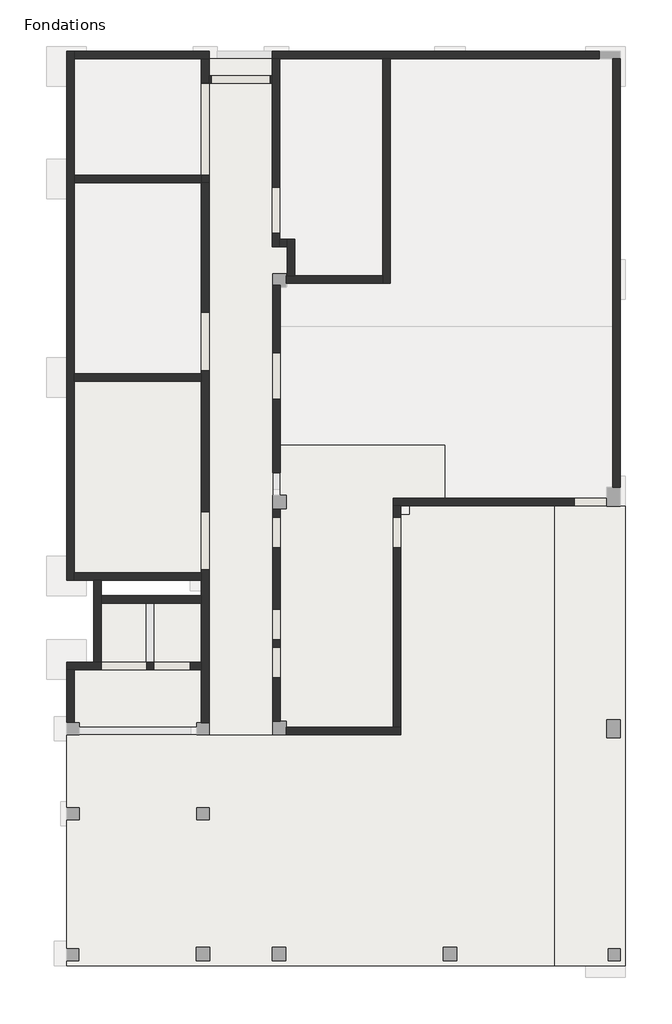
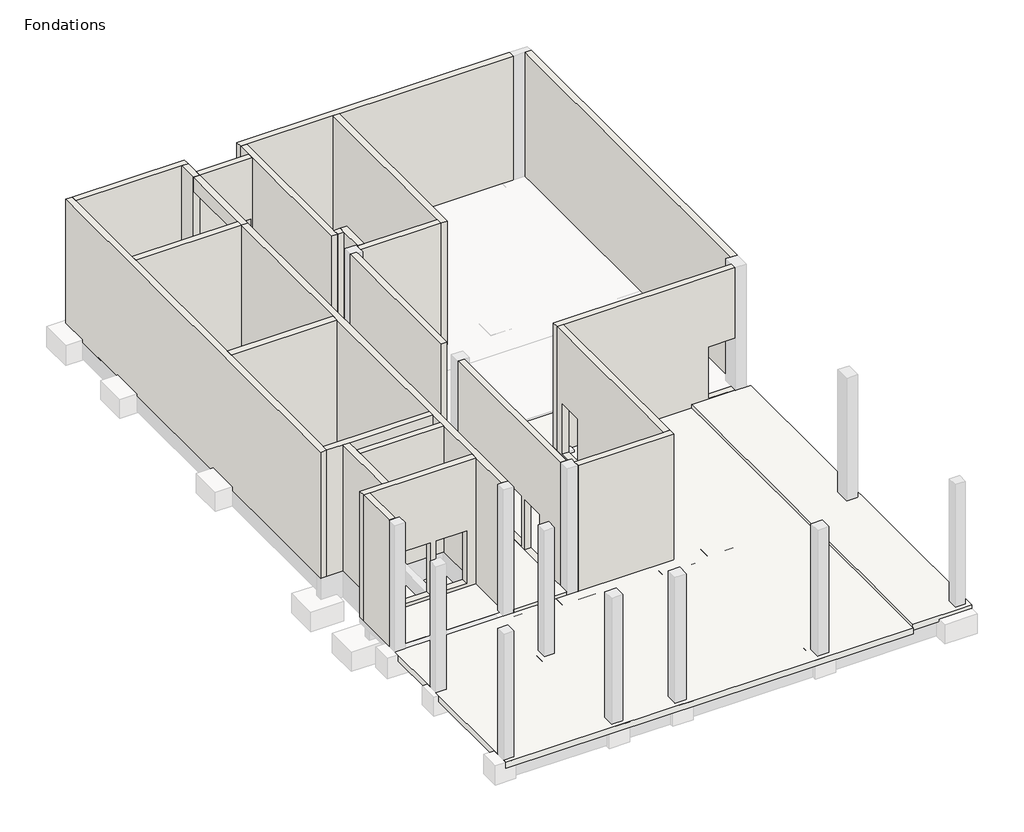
# One storey, part 1 of 3: 25 walls, 7 slabs.
"""IFC4 building model written with IfcOpenShell, lengths in millimetres."""

import ifcopenshell
import ifcopenshell.guid

model = None  # the IFC model being written
_history = None  # IfcOwnerHistory: only IFC2X3 demands one
_inside = {}  # id of a spatial element -> (the spatial element, [elements in it])
_under = {}  # id of a project, library or spatial element -> (it, [spatial elements below it])
_declared = {}  # id of a project -> (the project, [libraries it declares])
_typed = {}  # id of a type object -> (the type object, [elements of that type])
_made_of = {}  # id of a material, layer set ... -> (it, [elements and type objects made of it])


def new_model(schema):
    """Start an empty IFC model of exactly this schema.

    Asked for "IFC4X3", IfcOpenShell would pick the latest addendum, in which some entities
    have other attributes; the version numbers below select the first issue.
    IFC2X3 requires an IfcOwnerHistory on every rooted entity: one is made here for all.
    """
    global model, _history
    if schema == "IFC4X3":
        model = ifcopenshell.file(schema_version=(4, 3, 0, 0))
    else:
        model = ifcopenshell.file(schema=schema)
    _inside.clear()
    _under.clear()
    _declared.clear()
    _typed.clear()
    _made_of.clear()
    _history = None
    if model.schema == "IFC2X3":
        org = make("IfcOrganization", Name="unknown")
        user = make(
            "IfcPersonAndOrganization",
            ThePerson=make("IfcPerson", FamilyName="unknown"),
            TheOrganization=org,
        )
        app = make(
            "IfcApplication",
            ApplicationDeveloper=org,
            Version="unknown",
            ApplicationFullName="unknown",
            ApplicationIdentifier="unknown",
        )
        _history = make(
            "IfcOwnerHistory",
            OwningUser=user,
            OwningApplication=app,
            ChangeAction="ADDED",
            CreationDate=0,
        )
    return model


def make(cls, **values):
    """One entity of the class cls with the attributes given. An attribute that is None is left unset."""
    return model.create_entity(
        cls, **{name: value for name, value in values.items() if value is not None}
    )


def rooted(cls, **values):
    """An entity with a GlobalId (a new one), such as an element, a storey or a relation."""
    return make(cls, GlobalId=ifcopenshell.guid.new(), OwnerHistory=_history, **values)


def si_unit(unit_type, name, prefix=None):
    """IfcSIUnit, for example si_unit("LENGTHUNIT", "METRE", prefix="MILLI")."""
    return make("IfcSIUnit", UnitType=unit_type, Prefix=prefix, Name=name)


def assignment(units):
    """IfcUnitAssignment: the units of a project."""
    return None if units is None else make("IfcUnitAssignment", Units=units)


def point(xyz):
    """IfcCartesianPoint."""
    return None if xyz is None else make("IfcCartesianPoint", Coordinates=xyz)


def direction(xyz):
    """IfcDirection."""
    return None if xyz is None else make("IfcDirection", DirectionRatios=xyz)


def frame(location, z_axis=None, x_axis=None):
    """IfcAxis2Placement3D, a coordinate frame: its origin and axes. An axis left out is left unset."""
    return make(
        "IfcAxis2Placement3D",
        Location=point(location),
        Axis=direction(z_axis),
        RefDirection=direction(x_axis),
    )


def origin():
    """The frame at (0, 0, 0) with its axes left unset."""
    return frame((0.0, 0.0, 0.0))


def place(relative_to, where):
    """IfcLocalPlacement: puts the frame where relative to a parent placement (None: the world)."""
    return make(
        "IfcLocalPlacement", PlacementRelTo=relative_to, RelativePlacement=where
    )


def context(
    kind, dimensions, precision=None, world=None, true_north=None, identifier=None
):
    """IfcGeometricRepresentationContext, for example the 3D "Model" context."""
    return make(
        "IfcGeometricRepresentationContext",
        ContextIdentifier=identifier,
        ContextType=kind,
        CoordinateSpaceDimension=dimensions,
        Precision=precision,
        WorldCoordinateSystem=world,
        TrueNorth=true_north,
    )


def project(units=None, contexts=None):
    """IfcProject with its units and contexts."""
    return rooted(
        "IfcProject",
        Name="project",
        RepresentationContexts=contexts,
        UnitsInContext=assignment(units),
    )


def spatial(cls, under=None, at=None, **own):
    """A site, building, storey or space (cls), placed at a placement, below another one or the project."""
    s = rooted(cls, ObjectPlacement=at, **own)
    if under is not None:
        _under.setdefault(under.id(), (under, []))[1].append(s)
    return s


def polyline(points):
    """IfcPolyline through the points."""
    return make("IfcPolyline", Points=[point(p) for p in points])


def outline(outer, holes=None, kind="AREA"):
    """IfcArbitraryClosedProfileDef: a profile drawn as a closed curve; with holes, ...WithVoids."""
    if holes is None:
        return make("IfcArbitraryClosedProfileDef", ProfileType=kind, OuterCurve=outer)
    return make(
        "IfcArbitraryProfileDefWithVoids",
        ProfileType=kind,
        OuterCurve=outer,
        InnerCurves=holes,
    )


def extrude(swept, where, along, depth):
    """IfcExtrudedAreaSolid: the profile swept, set in the frame where, extruded along a direction by depth."""
    return make(
        "IfcExtrudedAreaSolid",
        SweptArea=swept,
        Position=where,
        ExtrudedDirection=direction(along),
        Depth=depth,
    )


def faces_of(points, faces, orient=None, outer=None):
    """IfcFace entities. A face is a list of loops; a loop is a list of indices into points, from 0.

    orient and outer hold one flag for each loop. By default every Orientation is true, the
    first loop of a face is its IfcFaceOuterBound and the others are IfcFaceBound.
    """
    made = []
    for i, loops in enumerate(faces):
        bounds = []
        for j, loop in enumerate(loops):
            is_outer = j == 0 if outer is None else outer[i][j]
            bounds.append(
                make(
                    "IfcFaceOuterBound" if is_outer else "IfcFaceBound",
                    Bound=make("IfcPolyLoop", Polygon=[points[k] for k in loop]),
                    Orientation=True if orient is None else orient[i][j],
                )
            )
        made.append(make("IfcFace", Bounds=bounds))
    return made


def faceted_brep(points, faces, orient=None, outer=None, voids=None):
    """IfcFacetedBrep: a solid bounded by flat faces; with voids (closed shells), ...WithVoids."""
    shared = [point(p) for p in points]
    hull = make("IfcClosedShell", CfsFaces=faces_of(shared, faces, orient, outer))
    if voids is None:
        return make("IfcFacetedBrep", Outer=hull)
    return make(
        "IfcFacetedBrepWithVoids",
        Outer=hull,
        Voids=[
            make(cls, CfsFaces=faces_of(shared, fs, o, b)) for cls, fs, o, b in voids
        ],
    )


def shape(context_of_items, identifier, shape_type, items):
    """IfcShapeRepresentation: the items that make up one representation, for example the "Body"."""
    return make(
        "IfcShapeRepresentation",
        ContextOfItems=context_of_items,
        RepresentationIdentifier=identifier,
        RepresentationType=shape_type,
        Items=items,
    )


def made_of(thing, what):
    """Note that an element or type object is made of a material, layer set ...; save() writes the relation."""
    if what is not None:
        _made_of.setdefault(what.id(), (what, []))[1].append(thing)
    return thing


def element(
    cls,
    number,
    at=None,
    inside=None,
    cuts=None,
    type_object=None,
    material=None,
    context=None,
    identifier="Body",
    shape_type=None,
    held_by="IfcProductDefinitionShape",
    body=None,
    shapes=None,
    **own,
):
    """One element of the class cls, such as IfcWall. Its Tag is "e" and its number.

    at: its placement. inside: the storey or other place that contains it. cuts: it is an
    opening in that element (IfcRelVoidsElement). A single representation is given by context,
    identifier, shape_type and body (its items); several are given by shapes. held_by: the class
    of the entity that holds the representations. save() writes the other relations.
    """
    e = rooted(cls, Tag="e%d" % number, ObjectPlacement=at, **own)
    if body is not None:
        shapes = [shape(context, identifier, shape_type, body)]
    if shapes is not None:
        e.Representation = make(held_by, Representations=shapes)
    if inside is not None:
        _inside.setdefault(inside.id(), (inside, []))[1].append(e)
    if cuts is not None:
        rooted(
            "IfcRelVoidsElement", RelatingBuildingElement=cuts, RelatedOpeningElement=e
        )
    if type_object is not None:
        _typed.setdefault(type_object.id(), (type_object, []))[1].append(e)
    return made_of(e, material)


def aggregate(whole, parts):
    """IfcRelAggregates: a whole, such as a stair, and the parts it consists of."""
    return rooted("IfcRelAggregates", RelatingObject=whole, RelatedObjects=parts)


def save(model, path):
    """Write the relations noted so far, then the file.

    IfcRelAggregates (storeys below a building ...), IfcRelContainedInSpatialStructure (elements
    in a storey), IfcRelDefinesByType, IfcRelAssociatesMaterial and IfcRelDeclares: one each for
    every whole, place, type object, material and project.
    """
    for whole, parts in _under.values():
        aggregate(whole, parts)
    for where, things in _inside.values():
        rooted(
            "IfcRelContainedInSpatialStructure",
            RelatedElements=things,
            RelatingStructure=where,
        )
    for kind, things in _typed.values():
        rooted("IfcRelDefinesByType", RelatedObjects=things, RelatingType=kind)
    for what, things in _made_of.values():
        rooted("IfcRelAssociatesMaterial", RelatedObjects=things, RelatingMaterial=what)
    for by, libraries in _declared.values():
        rooted("IfcRelDeclares", RelatingContext=by, RelatedDefinitions=libraries)
    model.write(path)


model = new_model("IFC4")

# Units and contexts
model_context = context("Model", 3, world=origin())
ifc_project = project(units=[si_unit("LENGTHUNIT", "METRE", prefix="MILLI")], contexts=[model_context])

# Site, building, storey
site = spatial("IfcSite", under=ifc_project)
building = spatial("IfcBuilding", under=site)
storey = spatial("IfcBuildingStorey", under=building, Name="Fondations", Elevation=-160.0)

# Slabs
placement = place(None, origin())
element("IfcSlab", 1, ObjectType="Générique  20 cm", at=placement, inside=storey, context=model_context, shape_type="Brep", body=[
    faceted_brep([(-2002.7042431, 5679.8777218, -270.0), (-2002.7042431, 3909.8777218, -270.0), (-3712.7042431, 3909.8777218, -270.0), (-3712.7042431, -3625.1222782, -270.0), (-7232.7042431, -3625.1222782, -270.0), (-7232.7042431, -3425.1222782, -270.0), (-7432.7042431, -3425.1222782, -270.0), (-7432.7042431, -3000.1222782, -270.0), (-7432.7042431, 3384.8777218, -270.0), (-7432.7042431, 3554.8777218, -270.0), (-7232.7042431, 3554.8777218, -270.0), (-7232.7042431, 4009.8777218, -270.0), (-7432.7042431, 4009.8777218, -270.0), (-7432.7042431, 4184.8777218, -270.0), (-7432.7042431, 5679.8777218, -270.0), (-7357.7042431, 5679.8777218, -270.0), (-2002.7042431, 5679.8777218, -70.0), (-7432.7042431, 5679.8777218, -70.0), (-7432.7042431, 4749.8777218, -70.0), (-7432.7042431, 4184.8777218, -70.0), (-7432.7042431, 4009.8777218, -70.0), (-7232.7042431, 4009.8777218, -70.0), (-7232.7042431, 3554.8777218, -70.0), (-7432.7042431, 3554.8777218, -70.0), (-7432.7042431, -3425.1222782, -70.0), (-7232.7042431, -3425.1222782, -70.0), (-7232.7042431, -3625.1222782, -70.0), (-3712.7042431, -3625.1222782, -70.0), (-3712.7042431, 3909.8777218, -70.0), (-2002.7042431, 3909.8777218, -70.0), (-7232.7042431, -3425.1222782, -160.0), (-7432.7042431, 5679.8777218, -250.0)], [[[0, 1, 2, 3, 4, 5, 6, 7, 8, 9, 10, 11, 12, 13, 14, 15]], [[16, 17, 18, 19, 20, 21, 22, 23, 24, 25, 26, 27, 28, 29]], [[1, 0, 16, 29]], [[2, 1, 29, 28]], [[3, 2, 28, 27]], [[4, 3, 27, 26]], [[5, 4, 26, 25, 30]], [[6, 5, 30, 25, 24]], [[9, 8, 7, 6, 24, 23]], [[10, 9, 23, 22]], [[11, 10, 22, 21]], [[12, 11, 21, 20]], [[14, 13, 12, 20, 19, 18, 17, 31]], [[0, 15, 14, 31, 17, 16]]]),
])
element("IfcSlab", 2, ObjectType="Générique  25 cm", at=placement, inside=storey, context=model_context, shape_type="Brep", body=[
    faceted_brep([(1602.2957569, 3659.8777218, -405.0), (1602.2957569, 3634.8777218, -405.0), (1602.2957569, -11065.1222782, -405.0), (1602.2957569, -11315.1222782, -405.0), (1602.2957569, -11475.1222782, -405.0), (-14472.7042431, -11475.1222782, -405.0), (-14472.7042431, -11315.1222782, -405.0), (-14072.7042431, -11315.1222782, -405.0), (-14072.7042431, -10915.1222782, -405.0), (-14472.7042431, -10915.1222782, -405.0), (-14472.7042431, -6675.1222782, -405.0), (-14062.7042431, -6675.1222782, -405.0), (-14062.7042431, -6275.1222782, -405.0), (-14462.7042431, -6275.1222782, -405.0), (-14462.7042431, -3875.1222782, -405.0), (-3462.7042431, -3875.1222782, -405.0), (-3462.7042431, 3659.8777218, -405.0), (-1352.7042431, 3659.8777218, -405.0), (1602.2957569, 3659.8777218, -155.0), (-3462.7042431, 3659.8777218, -155.0), (-3462.7042431, -3875.1222782, -155.0), (-14462.7042431, -3875.1222782, -155.0), (-14462.7042431, -6275.1222782, -155.0), (-14062.7042431, -6275.1222782, -155.0), (-14062.7042431, -6675.1222782, -155.0), (-14472.7042431, -6675.1222782, -155.0), (-14472.7042431, -10915.1222782, -155.0), (-14072.7042431, -10915.1222782, -155.0), (-14072.7042431, -11315.1222782, -155.0), (-14472.7042431, -11315.1222782, -155.0), (-14472.7042431, -11475.1222782, -155.0), (1602.2957569, -11475.1222782, -155.0), (1602.2957569, 3659.8777218, -265.0), (-14072.7042431, -11315.1222782, -160.0), (-14072.7042431, -10915.1222782, -160.0), (-14472.7042431, -10915.1222782, -160.0), (-14062.7042431, -6675.1222782, -160.0), (-14062.7042431, -6275.1222782, -160.0), (-14462.7042431, -6275.1222782, -160.0), (-14462.7042431, -3875.1222782, -160.0), (-14472.7042431, -11315.1222782, -160.0)], [[[0, 1, 2, 3, 4, 5, 6, 7, 8, 9, 10, 11, 12, 13, 14, 15, 16, 17]], [[18, 19, 20, 21, 22, 23, 24, 25, 26, 27, 28, 29, 30, 31]], [[4, 3, 2, 1, 0, 32, 18, 31]], [[8, 7, 33, 28, 27, 34]], [[9, 8, 34, 27, 26, 35]], [[10, 9, 35, 26, 25]], [[11, 10, 25, 24, 36]], [[12, 11, 36, 24, 23, 37]], [[13, 12, 37, 23, 22, 38]], [[14, 13, 38, 22, 21, 39]], [[15, 14, 39, 21, 20]], [[16, 15, 20, 19]], [[0, 17, 16, 19, 18, 32]], [[5, 4, 31, 30]], [[6, 5, 30, 29, 40]], [[7, 6, 40, 29, 28, 33]]]),
])
element("IfcSlab", 3, ObjectType="Générique  25 cm", at=placement, inside=storey, context=model_context, shape_type="Brep", body=[
    faceted_brep([(3307.2957569, 3659.8777218, -265.0), (3307.2957569, 3644.8777218, -265.0), (3917.2957569, 3644.8777218, -265.0), (3917.2957569, -11315.1222782, -265.0), (3917.2957569, -11475.1222782, -265.0), (1597.2957569, -11475.1222782, -265.0), (1597.2957569, 3659.8777218, -265.0), (1602.2957569, 3659.8777218, -265.0), (2617.2957569, 3659.8777218, -265.0), (3307.2957569, 3659.8777218, -15.0), (1597.2957569, 3659.8777218, -15.0), (1597.2957569, -11475.1222782, -15.0), (3917.2957569, -11475.1222782, -15.0), (3917.2957569, -11315.1222782, -15.0), (3917.2957569, 3644.8777218, -15.0), (3307.2957569, 3644.8777218, -15.0)], [[[0, 1, 2, 3, 4, 5, 6, 7, 8]], [[9, 10, 11, 12, 13, 14, 15]], [[1, 0, 9, 15]], [[2, 1, 15, 14]], [[3, 2, 14, 13]], [[4, 3, 13, 12]], [[5, 4, 12, 11]], [[6, 5, 11, 10]], [[0, 8, 7, 6, 10, 9]]]),
])
element("IfcSlab", 4, ObjectType="Générique  20 cm", at=placement, inside=storey, context=model_context, shape_type="Brep", body=[
    faceted_brep([(-10032.7042431, -3475.1222782, -355.0), (-10182.7042431, -3475.1222782, -355.0), (-10182.7042431, -3615.1222782, -355.0), (-14062.7042431, -3615.1222782, -355.0), (-14062.7042431, -3470.1222782, -355.0), (-14212.7042431, -3470.1222782, -355.0), (-14212.7042431, -1735.1222782, -355.0), (-10032.7042431, -1735.1222782, -355.0), (-10032.7042431, -3475.1222782, -155.0), (-10032.7042431, -1735.1222782, -155.0), (-14212.7042431, -1735.1222782, -155.0), (-14212.7042431, -3470.1222782, -155.0), (-14062.7042431, -3470.1222782, -155.0), (-14062.7042431, -3615.1222782, -155.0), (-10182.7042431, -3615.1222782, -155.0), (-10182.7042431, -3475.1222782, -155.0), (-10182.7042431, -3475.1222782, -160.0), (-10032.7042431, -1735.1222782, -160.0)], [[[0, 1, 2, 3, 4, 5, 6, 7]], [[8, 9, 10, 11, 12, 13, 14, 15]], [[1, 0, 8, 15, 16]], [[2, 1, 16, 15, 14]], [[3, 2, 14, 13]], [[4, 3, 13, 12]], [[5, 4, 12, 11]], [[6, 5, 11, 10]], [[7, 6, 10, 9, 17]], [[0, 7, 17, 9, 8]]]),
])
element("IfcSlab", 5, ObjectType="Générique  20 cm", at=placement, inside=storey, context=model_context, shape_type="Brep", body=[
    faceted_brep([(-13332.7042431, 454.8777218, -1250.0), (-10032.7042431, 454.8777218, -1250.0), (-10032.7042431, -1250.1222782, -1250.0), (-10032.7042431, -1485.1222782, -1250.0), (-10307.7042431, -1485.1222782, -1250.0), (-13332.7042431, -1485.1222782, -1250.0), (-13332.7042431, 454.8777218, -1050.0), (-13332.7042431, -1485.1222782, -1050.0), (-10032.7042431, -1485.1222782, -1050.0), (-10032.7042431, 454.8777218, -1050.0)], [[[0, 1, 2, 3, 4, 5]], [[6, 7, 8, 9]], [[1, 0, 6, 9]], [[3, 2, 1, 9, 8]], [[5, 4, 3, 8, 7]], [[0, 5, 7, 6]]]),
])
element("IfcSlab", 6, ObjectType="Générique  20 cm", at=placement, inside=storey, context=model_context, shape_type="Brep", body=[
    faceted_brep([(-10032.7042431, 1454.8777218, -200.0), (-10207.7042431, 1454.8777218, -200.0), (-14212.7042431, 1454.8777218, -200.0), (-14212.7042431, 7764.8777218, -200.0), (-10032.7042431, 7764.8777218, -200.0), (-10032.7042431, 7389.8777218, -200.0), (-10032.7042431, 1454.8777218, 0.0), (-10032.7042431, 7764.8777218, 0.0), (-10407.9824135, 7764.8777218, 0.0), (-13827.9824135, 7764.8777218, 0.0), (-14212.7042431, 7764.8777218, 0.0), (-14212.7042431, 1454.8777218, 0.0), (-10032.7042431, 1454.8777218, -160.0), (-14212.7042431, 1454.8777218, -160.0)], [[[0, 1, 2, 3, 4, 5]], [[6, 7, 8, 9, 10, 11]], [[2, 1, 0, 12, 6, 11, 13]], [[3, 2, 13, 11, 10]], [[4, 3, 10, 9, 8, 7]], [[0, 5, 4, 7, 6, 12]]]),
])
element("IfcSlab", 7, ObjectType="Générique  20 cm", at=placement, inside=storey, context=model_context, shape_type="Brep", body=[
    faceted_brep([(-9782.7042431, 18374.8777218, -215.0), (-7707.7042431, 18374.8777218, -215.0), (-7707.7042431, 17984.8777218, -215.0), (-7707.7042431, 12184.8777218, -215.0), (-7257.7042431, 12184.8777218, -215.0), (-7207.7042431, 12184.8777218, -215.0), (-7207.7042431, 11234.8777218, -215.0), (-7232.7042431, 11234.8777218, -215.0), (-7232.7042431, 11309.8777218, -215.0), (-7682.7042431, 11309.8777218, -215.0), (-7682.7042431, 10434.8777218, -215.0), (-7682.7042431, 4184.8777218, -215.0), (-7682.7042431, 3384.8777218, -215.0), (-7682.7042431, -3000.1222782, -215.0), (-7682.7042431, -3875.1222782, -215.0), (-8107.7042431, -3875.1222782, -215.0), (-9582.7042431, -3875.1222782, -215.0), (-9782.7042431, -3875.1222782, -215.0), (-9782.7042431, -1735.1222782, -215.0), (-9782.7042431, -1610.1222782, -215.0), (-9782.7042431, 1329.8777218, -215.0), (-9782.7042431, 1454.8777218, -215.0), (-9782.7042431, 7389.8777218, -215.0), (-9782.7042431, 8389.8777218, -215.0), (-9782.7042431, 13919.8777218, -215.0), (-9782.7042431, 18374.8777218, -15.0), (-9782.7042431, -3875.1222782, -15.0), (-7682.7042431, -3875.1222782, -15.0), (-7682.7042431, 11309.8777218, -15.0), (-7232.7042431, 11309.8777218, -15.0), (-7232.7042431, 11234.8777218, -15.0), (-7207.7042431, 11234.8777218, -15.0), (-7207.7042431, 12184.8777218, -15.0), (-7707.7042431, 12184.8777218, -15.0), (-7707.7042431, 18374.8777218, -15.0), (-7707.7042431, 18374.8777218, -30.0), (-7707.7042431, 18374.8777218, -70.0), (-7707.7042431, 12184.8777218, -160.0), (-7232.7042431, 11309.8777218, -70.0), (-7682.7042431, 11309.8777218, -70.0), (-7682.7042431, -3875.1222782, -160.0), (-9782.7042431, -3875.1222782, -160.0)], [[[0, 1, 2, 3, 4, 5, 6, 7, 8, 9, 10, 11, 12, 13, 14, 15, 16, 17, 18, 19, 20, 21, 22, 23, 24]], [[25, 26, 27, 28, 29, 30, 31, 32, 33, 34]], [[1, 0, 25, 34, 35, 36]], [[3, 2, 1, 36, 35, 34, 33, 37]], [[5, 4, 3, 37, 33, 32]], [[6, 5, 32, 31]], [[7, 6, 31, 30]], [[8, 7, 30, 29, 38]], [[9, 8, 38, 29, 28, 39]], [[14, 13, 12, 11, 10, 9, 39, 28, 27, 40]], [[17, 16, 15, 14, 40, 27, 26, 41]], [[0, 24, 23, 22, 21, 20, 19, 18, 17, 41, 26, 25]]]),
])

# Walls
element("IfcWall", 8, ObjectType="Générique - 25 cm", at=placement, inside=storey, context=model_context, shape_type="Brep", body=[
    faceted_brep([(3057.2957569, 18624.8777218, -160.0), (2617.2957569, 18624.8777218, -160.0), (-1352.7042431, 18624.8777218, -160.0), (-2352.7042431, 18624.8777218, -160.0), (-3942.7042431, 18624.8777218, -160.0), (-7157.7042431, 18624.8777218, -160.0), (-7707.7042431, 18624.8777218, -160.0), (-7707.7042431, 18624.8777218, -70.0), (-7707.7042431, 18624.8777218, -30.0), (-7707.7042431, 18624.8777218, 5105.0), (3057.2957569, 18624.8777218, 5105.0), (3057.2957569, 18624.8777218, -70.0), (3057.2957569, 18374.8777218, -160.0), (3057.2957569, 18374.8777218, -70.0), (3057.2957569, 18374.8777218, 5105.0), (-3817.7042431, 18374.8777218, 5105.0), (-4067.7042431, 18374.8777218, 5105.0), (-7457.7042431, 18374.8777218, 5105.0), (-7707.7042431, 18374.8777218, 5105.0), (-7707.7042431, 18374.8777218, -30.0), (-7707.7042431, 18374.8777218, -70.0), (-7707.7042431, 18374.8777218, -160.0), (-7457.7042431, 18374.8777218, -160.0), (-7157.7042431, 18374.8777218, -160.0), (-3942.7042431, 18374.8777218, -160.0), (-2352.7042431, 18374.8777218, -160.0), (-1352.7042431, 18374.8777218, -160.0), (2617.2957569, 18374.8777218, -160.0)], [[[0, 1, 2, 3, 4, 5, 6, 7, 8, 9, 10, 11]], [[12, 13, 14, 15, 16, 17, 18, 19, 20, 21, 22, 23, 24, 25, 26, 27]], [[6, 5, 4, 3, 2, 1, 0, 12, 27, 26, 25, 24, 23, 22, 21]], [[10, 9, 18, 17, 16, 15, 14]], [[0, 11, 10, 14, 13, 12]], [[9, 8, 7, 6, 21, 20, 19, 18]]]),
])
element("IfcWall", 9, ObjectType="Générique - 25 cm", at=placement, inside=storey, context=model_context, shape_type="Brep", body=[
    faceted_brep([(-7707.7042431, 18374.8777218, -160.0), (-7707.7042431, 17984.8777218, -160.0), (-7707.7042431, 17829.8777218, -160.0), (-7707.7042431, 17579.8777218, -160.0), (-7707.7042431, 12184.8777218, -160.0), (-7707.7042431, 12184.8777218, 5105.0), (-7707.7042431, 17579.8777218, 5105.0), (-7707.7042431, 17829.8777218, 5105.0), (-7707.7042431, 18374.8777218, 5105.0), (-7707.7042431, 14154.8777218, 2085.0), (-7707.7042431, 12634.8777218, 2085.0), (-7707.7042431, 12634.8777218, 0.0), (-7707.7042431, 14154.8777218, 0.0), (-7457.7042431, 12184.8777218, -160.0), (-7457.7042431, 12434.8777218, -160.0), (-7457.7042431, 17984.8777218, -160.0), (-7457.7042431, 18374.8777218, -160.0), (-7457.7042431, 18374.8777218, 5105.0), (-7457.7042431, 12434.8777218, 5105.0), (-7457.7042431, 12184.8777218, 5105.0), (-7457.7042431, 12634.8777218, 2085.0), (-7457.7042431, 14154.8777218, 2085.0), (-7457.7042431, 14154.8777218, 0.0), (-7457.7042431, 12634.8777218, 0.0)], [[[0, 1, 2, 3, 4, 5, 6, 7, 8], [9, 10, 11, 12]], [[13, 14, 15, 16, 17, 18, 19], [20, 21, 22, 23]], [[4, 3, 2, 1, 0, 16, 15, 14, 13]], [[8, 7, 6, 5, 19, 18, 17]], [[0, 8, 17, 16]], [[5, 4, 13, 19]], [[9, 21, 20, 10]], [[11, 23, 22, 12]], [[21, 9, 12, 22]], [[10, 20, 23, 11]]]),
])
element("IfcWall", 10, ObjectType="Générique - 25 cm", at=placement, inside=storey, context=model_context, shape_type="Brep", body=[
    faceted_brep([(3507.2957569, 18374.8777218, -160.0), (3507.2957569, 17484.8777218, -160.0), (3507.2957569, 11759.8777218, -160.0), (3507.2957569, 10459.8777218, -160.0), (3507.2957569, 4634.8777218, -160.0), (3507.2957569, 4274.8777218, -160.0), (3507.2957569, 4274.8777218, 5105.0), (3507.2957569, 18374.8777218, 5105.0), (3507.2957569, 18374.8777218, 0.0), (3507.2957569, 18374.8777218, -70.0), (3757.2957569, 18374.8777218, -160.0), (3757.2957569, 18374.8777218, -70.0), (3757.2957569, 18374.8777218, 0.0), (3757.2957569, 18374.8777218, 5105.0), (3757.2957569, 4274.8777218, 5105.0), (3757.2957569, 4274.8777218, -160.0), (3757.2957569, 4634.8777218, -160.0), (3757.2957569, 10459.8777218, -160.0), (3757.2957569, 11759.8777218, -160.0), (3757.2957569, 17484.8777218, -160.0)], [[[0, 1, 2, 3, 4, 5, 6, 7, 8, 9]], [[10, 11, 12, 13, 14, 15, 16, 17, 18, 19]], [[5, 4, 3, 2, 1, 0, 10, 19, 18, 17, 16, 15]], [[6, 5, 15, 14]], [[7, 6, 14, 13]], [[0, 9, 8, 7, 13, 12, 11, 10]]]),
])
element("IfcWall", 11, ObjectType="Générique - 25 cm", at=placement, inside=storey, context=model_context, shape_type="Brep", body=[
    faceted_brep([(3307.2957569, 3909.8777218, -160.0), (2617.2957569, 3909.8777218, -160.0), (-1352.7042431, 3909.8777218, -160.0), (-3712.7042431, 3909.8777218, -160.0), (-3712.7042431, 3909.8777218, 5105.0), (3307.2957569, 3909.8777218, 5105.0), (3307.2957569, 3909.8777218, 2160.0), (2247.5487045, 3909.8777218, 2160.0), (2247.5487045, 3909.8777218, 0.0), (3307.2957569, 3909.8777218, 0.0), (-3712.7042431, 3659.8777218, -160.0), (-3462.7042431, 3659.8777218, -160.0), (-1352.7042431, 3659.8777218, -160.0), (2617.2957569, 3659.8777218, -160.0), (3307.2957569, 3659.8777218, -160.0), (3307.2957569, 3659.8777218, 0.0), (2247.5487045, 3659.8777218, 0.0), (2247.5487045, 3659.8777218, 2160.0), (3307.2957569, 3659.8777218, 2160.0), (3307.2957569, 3659.8777218, 5105.0), (-3462.7042431, 3659.8777218, 5105.0), (-3712.7042431, 3659.8777218, 5105.0)], [[[0, 1, 2, 3, 4, 5, 6, 7, 8, 9]], [[10, 11, 12, 13, 14, 15, 16, 17, 18, 19, 20, 21]], [[3, 2, 1, 0, 14, 13, 12, 11, 10]], [[5, 4, 21, 20, 19]], [[14, 0, 9, 15]], [[5, 19, 18, 6]], [[4, 3, 10, 21]], [[17, 7, 6, 18]], [[8, 16, 15, 9]], [[7, 17, 16, 8]]]),
])
element("IfcWall", 12, ObjectType="Générique - 25 cm", at=placement, inside=storey, context=model_context, shape_type="Brep", body=[
    faceted_brep([(-3462.7042431, -3625.1222782, -160.0), (-3712.7042431, -3625.1222782, -160.0), (-7232.7042431, -3625.1222782, -160.0), (-7232.7042431, -3625.1222782, 5105.0), (-3712.7042431, -3625.1222782, 5105.0), (-3462.7042431, -3625.1222782, 5105.0), (-3462.7042431, -3875.1222782, -160.0), (-3462.7042431, -3875.1222782, 5105.0), (-7232.7042431, -3875.1222782, 5105.0), (-7232.7042431, -3875.1222782, -160.0)], [[[0, 1, 2, 3, 4, 5]], [[6, 7, 8, 9]], [[2, 1, 0, 6, 9]], [[3, 2, 9, 8]], [[5, 4, 3, 8, 7]], [[0, 5, 7, 6]]]),
])
element("IfcWall", 13, ObjectType="Générique - 25 cm", at=placement, inside=storey, context=model_context, shape_type="Brep", body=[
    faceted_brep([(-3462.7042431, -3625.1222782, -160.0), (-3462.7042431, -3125.1222782, -160.0), (-3462.7042431, 3384.8777218, -160.0), (-3462.7042431, 3659.8777218, -160.0), (-3462.7042431, 3659.8777218, 5105.0), (-3462.7042431, -3625.1222782, 5105.0), (-3462.7042431, 2284.8777218, 2085.0), (-3462.7042431, 3289.8777218, 2085.0), (-3462.7042431, 3289.8777218, 0.0), (-3462.7042431, 2284.8777218, 0.0), (-3712.7042431, 3659.8777218, -160.0), (-3712.7042431, 3384.8777218, -160.0), (-3712.7042431, -3125.1222782, -160.0), (-3712.7042431, -3625.1222782, -160.0), (-3712.7042431, -3625.1222782, 5105.0), (-3712.7042431, 3659.8777218, 5105.0), (-3712.7042431, 3289.8777218, 2085.0), (-3712.7042431, 2284.8777218, 2085.0), (-3712.7042431, 2284.8777218, 0.0), (-3712.7042431, 3289.8777218, 0.0)], [[[0, 1, 2, 3, 4, 5], [6, 7, 8, 9]], [[10, 11, 12, 13, 14, 15], [16, 17, 18, 19]], [[3, 2, 1, 0, 13, 12, 11, 10]], [[5, 4, 15, 14]], [[4, 3, 10, 15]], [[0, 5, 14, 13]], [[6, 17, 16, 7]], [[8, 19, 18, 9]], [[17, 6, 9, 18]], [[7, 16, 19, 8]]]),
])
element("IfcWall", 14, ObjectType="Générique - 25 cm", at=placement, inside=storey, context=model_context, shape_type="Brep", body=[
    faceted_brep([(-4067.7042431, 18374.8777218, -70.0), (-4067.7042431, 11234.8777218, -70.0), (-4067.7042431, 10984.8777218, -70.0), (-4067.7042431, 10984.8777218, 5105.0), (-4067.7042431, 11234.8777218, 5105.0), (-4067.7042431, 18374.8777218, 5105.0), (-3817.7042431, 18374.8777218, -70.0), (-3817.7042431, 18374.8777218, 5105.0), (-3817.7042431, 10984.8777218, 5105.0), (-3817.7042431, 10984.8777218, -70.0)], [[[0, 1, 2, 3, 4, 5]], [[6, 7, 8, 9]], [[2, 1, 0, 6, 9]], [[5, 4, 3, 8, 7]], [[0, 5, 7, 6]], [[3, 2, 9, 8]]]),
])
element("IfcWall", 15, ObjectType="Générique - 25 cm", at=placement, inside=storey, context=model_context, shape_type="Brep", body=[
    faceted_brep([(-7232.7042431, 10984.8777218, -70.0), (-4067.7042431, 10984.8777218, -70.0), (-4067.7042431, 10984.8777218, 5105.0), (-7232.7042431, 10984.8777218, 5105.0), (-7232.7042431, 11234.8777218, -70.0), (-7232.7042431, 11234.8777218, 5105.0), (-7207.7042431, 11234.8777218, 5105.0), (-6957.7042431, 11234.8777218, 5105.0), (-4067.7042431, 11234.8777218, 5105.0), (-4067.7042431, 11234.8777218, -70.0)], [[[0, 1, 2, 3]], [[4, 5, 6, 7, 8, 9]], [[1, 0, 4, 9]], [[3, 2, 8, 7, 6, 5]], [[0, 3, 5, 4]], [[2, 1, 9, 8]]]),
])
element("IfcWall", 16, ObjectType="Générique - 25 cm", at=placement, inside=storey, context=model_context, shape_type="Brep", body=[
    faceted_brep([(-7457.7042431, 12184.8777218, -160.0), (-7257.7042431, 12184.8777218, -160.0), (-7207.7042431, 12184.8777218, -160.0), (-7207.7042431, 12184.8777218, 5105.0), (-7457.7042431, 12184.8777218, 5105.0), (-7457.7042431, 12434.8777218, -160.0), (-7457.7042431, 12434.8777218, 5105.0), (-7207.7042431, 12434.8777218, 5105.0), (-7207.7042431, 12434.8777218, -160.0), (-7257.7042431, 12434.8777218, -160.0)], [[[0, 1, 2, 3, 4]], [[5, 6, 7, 8, 9]], [[2, 1, 0, 5, 9, 8]], [[4, 3, 7, 6]], [[0, 4, 6, 5]], [[3, 2, 8, 7]]]),
])
element("IfcWall", 17, ObjectType="Générique - 25 cm", at=placement, inside=storey, context=model_context, shape_type="Brep", body=[
    faceted_brep([(-7207.7042431, 12434.8777218, -160.0), (-7207.7042431, 12184.8777218, -160.0), (-7207.7042431, 11234.8777218, -160.0), (-7207.7042431, 11234.8777218, 5105.0), (-7207.7042431, 12184.8777218, 5105.0), (-7207.7042431, 12434.8777218, 5105.0), (-6957.7042431, 12434.8777218, -160.0), (-6957.7042431, 12434.8777218, 5105.0), (-6957.7042431, 11234.8777218, 5105.0), (-6957.7042431, 11234.8777218, -160.0)], [[[0, 1, 2, 3, 4, 5]], [[6, 7, 8, 9]], [[2, 1, 0, 6, 9]], [[5, 4, 3, 8, 7]], [[3, 2, 9, 8]], [[0, 5, 7, 6]]]),
])
element("IfcWall", 18, ObjectType="Générique - 25 cm", at=placement, inside=storey, context=model_context, shape_type="Brep", body=[
    faceted_brep([(-9782.7042431, 18624.8777218, -160.0), (-10307.7042431, 18624.8777218, -160.0), (-13832.7042431, 18624.8777218, -160.0), (-14212.7042431, 18624.8777218, -160.0), (-14212.7042431, 18624.8777218, 5105.0), (-9782.7042431, 18624.8777218, 5105.0), (-9782.7042431, 18374.8777218, -160.0), (-9782.7042431, 18374.8777218, 5105.0), (-10032.7042431, 18374.8777218, 5105.0), (-14212.7042431, 18374.8777218, 5105.0), (-14212.7042431, 18374.8777218, -160.0), (-13832.7042431, 18374.8777218, -160.0), (-10307.7042431, 18374.8777218, -160.0), (-10032.7042431, 18374.8777218, -160.0)], [[[0, 1, 2, 3, 4, 5]], [[6, 7, 8, 9, 10, 11, 12, 13]], [[3, 2, 1, 0, 6, 13, 12, 11, 10]], [[5, 4, 9, 8, 7]], [[4, 3, 10, 9]], [[0, 5, 7, 6]]]),
])
element("IfcWall", 19, ObjectType="Générique - 25 cm", at=placement, inside=storey, context=model_context, shape_type="Brep", body=[
    faceted_brep([(-14462.7042431, 18624.8777218, -160.0), (-14462.7042431, 13769.8777218, -160.0), (-14462.7042431, 8539.8777218, -160.0), (-14462.7042431, 7239.8777218, -160.0), (-14462.7042431, 1454.8777218, -160.0), (-14462.7042431, 1204.8777218, -160.0), (-14462.7042431, 1204.8777218, 5105.0), (-14462.7042431, 18624.8777218, 5105.0), (-14212.7042431, 18624.8777218, -160.0), (-14212.7042431, 18624.8777218, 5105.0), (-14212.7042431, 18374.8777218, 5105.0), (-14212.7042431, 14544.8777218, 5105.0), (-14212.7042431, 14294.8777218, 5105.0), (-14212.7042431, 8014.8777218, 5105.0), (-14212.7042431, 7764.8777218, 5105.0), (-14212.7042431, 1454.8777218, 5105.0), (-14212.7042431, 1204.8777218, 5105.0), (-14212.7042431, 1204.8777218, -160.0), (-14212.7042431, 1454.8777218, -160.0), (-14212.7042431, 7239.8777218, -160.0), (-14212.7042431, 8539.8777218, -160.0), (-14212.7042431, 13769.8777218, -160.0), (-14212.7042431, 18374.8777218, -160.0)], [[[0, 1, 2, 3, 4, 5, 6, 7]], [[8, 9, 10, 11, 12, 13, 14, 15, 16, 17, 18, 19, 20, 21, 22]], [[5, 4, 3, 2, 1, 0, 8, 22, 21, 20, 19, 18, 17]], [[7, 6, 16, 15, 14, 13, 12, 11, 10, 9]], [[0, 7, 9, 8]], [[6, 5, 17, 16]]]),
])
element("IfcWall", 20, ObjectType="Générique - 25 cm", at=placement, inside=storey, context=model_context, shape_type="Brep", body=[
    faceted_brep([(-14212.7042431, 14294.8777218, -90.0), (-13832.7042431, 14294.8777218, -90.0), (-10407.7042431, 14294.8777218, -90.0), (-10032.7042431, 14294.8777218, -90.0), (-10032.7042431, 14294.8777218, 5105.0), (-14212.7042431, 14294.8777218, 5105.0), (-14212.7042431, 14544.8777218, -90.0), (-14212.7042431, 14544.8777218, 5105.0), (-10032.7042431, 14544.8777218, 5105.0), (-10032.7042431, 14544.8777218, -90.0), (-10407.7042431, 14544.8777218, -90.0), (-13832.7042431, 14544.8777218, -90.0), (-10032.7042431, 14419.8777218, -90.0)], [[[0, 1, 2, 3, 4, 5]], [[6, 7, 8, 9, 10, 11]], [[3, 2, 1, 0, 6, 11, 10, 9, 12]], [[5, 4, 8, 7]], [[0, 5, 7, 6]], [[4, 3, 12, 9, 8]]]),
])
element("IfcWall", 21, ObjectType="Générique - 25 cm", at=placement, inside=storey, context=model_context, shape_type="Brep", body=[
    faceted_brep([(-10032.7042431, 14419.8777218, -160.0), (-10032.7042431, 13919.8777218, -160.0), (-10032.7042431, 8389.8777218, -160.0), (-10032.7042431, 7389.8777218, -160.0), (-10032.7042431, 1454.8777218, -160.0), (-10032.7042431, 1204.8777218, -160.0), (-10032.7042431, 704.8777218, -160.0), (-10032.7042431, 454.8777218, -160.0), (-10032.7042431, -1485.1222782, -160.0), (-10032.7042431, -1610.1222782, -160.0), (-10032.7042431, -1735.1222782, -160.0), (-10032.7042431, -3275.1222782, -160.0), (-10032.7042431, -3475.1222782, -160.0), (-10032.7042431, -3475.1222782, 5105.0), (-10032.7042431, -1735.1222782, 5105.0), (-10032.7042431, -1485.1222782, 5105.0), (-10032.7042431, 454.8777218, 5105.0), (-10032.7042431, 704.8777218, 5105.0), (-10032.7042431, 1204.8777218, 5105.0), (-10032.7042431, 1454.8777218, 5105.0), (-10032.7042431, 7764.8777218, 5105.0), (-10032.7042431, 8014.8777218, 5105.0), (-10032.7042431, 14294.8777218, 5105.0), (-10032.7042431, 14294.8777218, -90.0), (-10032.7042431, 14419.8777218, -90.0), (-10032.7042431, 3474.8777218, 2085.0), (-10032.7042431, 1554.8777218, 2085.0), (-10032.7042431, 1554.8777218, 0.0), (-10032.7042431, 3474.8777218, 0.0), (-10032.7042431, 10034.8777218, 2085.0), (-10032.7042431, 8114.8777218, 2085.0), (-10032.7042431, 8114.8777218, 0.0), (-10032.7042431, 10034.8777218, 0.0), (-9782.7042431, -3475.1222782, -160.0), (-9782.7042431, -3275.1222782, -160.0), (-9782.7042431, -1735.1222782, -160.0), (-9782.7042431, -1610.1222782, -160.0), (-9782.7042431, 1204.8777218, -160.0), (-9782.7042431, 1454.8777218, -160.0), (-9782.7042431, 7389.8777218, -160.0), (-9782.7042431, 8389.8777218, -160.0), (-9782.7042431, 13919.8777218, -160.0), (-9782.7042431, 14419.8777218, -160.0), (-9782.7042431, 14419.8777218, -90.0), (-9782.7042431, 14294.8777218, -90.0), (-9782.7042431, 14294.8777218, 5105.0), (-9782.7042431, -3475.1222782, 5105.0), (-9782.7042431, 1554.8777218, 2085.0), (-9782.7042431, 3474.8777218, 2085.0), (-9782.7042431, 3474.8777218, 0.0), (-9782.7042431, 1554.8777218, 0.0), (-9782.7042431, 8114.8777218, 2085.0), (-9782.7042431, 10034.8777218, 2085.0), (-9782.7042431, 10034.8777218, 0.0), (-9782.7042431, 8114.8777218, 0.0)], [[[0, 1, 2, 3, 4, 5, 6, 7, 8, 9, 10, 11, 12, 13, 14, 15, 16, 17, 18, 19, 20, 21, 22, 23, 24], [25, 26, 27, 28], [29, 30, 31, 32]], [[33, 34, 35, 36, 37, 38, 39, 40, 41, 42, 43, 44, 45, 46], [47, 48, 49, 50], [51, 52, 53, 54]], [[12, 11, 10, 9, 8, 7, 6, 5, 4, 3, 2, 1, 0, 42, 41, 40, 39, 38, 37, 36, 35, 34, 33]], [[13, 12, 33, 46]], [[22, 21, 20, 19, 18, 17, 16, 15, 14, 13, 46, 45]], [[25, 48, 47, 26]], [[27, 50, 49, 28]], [[48, 25, 28, 49]], [[26, 47, 50, 27]], [[29, 52, 51, 30]], [[31, 54, 53, 32]], [[52, 29, 32, 53]], [[30, 51, 54, 31]], [[0, 24, 43, 42]], [[23, 44, 43, 24]], [[23, 22, 45, 44]]]),
])
element("IfcWall", 22, ObjectType="Générique - 25 cm", at=placement, inside=storey, context=model_context, shape_type="Brep", body=[
    faceted_brep([(-7432.7042431, -3425.1222782, -160.0), (-7432.7042431, -3000.1222782, -160.0), (-7432.7042431, 3384.8777218, -160.0), (-7432.7042431, 3554.8777218, -160.0), (-7432.7042431, 3554.8777218, 5105.0), (-7432.7042431, -3425.1222782, 5105.0), (-7432.7042431, -2005.1222782, 2085.0), (-7432.7042431, -1000.1222782, 2085.0), (-7432.7042431, -1000.1222782, 0.0), (-7432.7042431, -2005.1222782, 0.0), (-7432.7042431, -750.1222782, 2085.0), (-7432.7042431, 254.8777218, 2085.0), (-7432.7042431, 254.8777218, 0.0), (-7432.7042431, -750.1222782, 0.0), (-7432.7042431, 2284.8777218, 2085.0), (-7432.7042431, 3289.8777218, 2085.0), (-7432.7042431, 3289.8777218, 0.0), (-7432.7042431, 2284.8777218, 0.0), (-7682.7042431, 3554.8777218, -160.0), (-7682.7042431, 3384.8777218, -160.0), (-7682.7042431, -3000.1222782, -160.0), (-7682.7042431, -3425.1222782, -160.0), (-7682.7042431, -3425.1222782, 5105.0), (-7682.7042431, 3554.8777218, 5105.0), (-7682.7042431, -1000.1222782, 2085.0), (-7682.7042431, -2005.1222782, 2085.0), (-7682.7042431, -2005.1222782, 0.0), (-7682.7042431, -1000.1222782, 0.0), (-7682.7042431, 254.8777218, 2085.0), (-7682.7042431, -750.1222782, 2085.0), (-7682.7042431, -750.1222782, 0.0), (-7682.7042431, 254.8777218, 0.0), (-7682.7042431, 3289.8777218, 2085.0), (-7682.7042431, 2284.8777218, 2085.0), (-7682.7042431, 2284.8777218, 0.0), (-7682.7042431, 3289.8777218, 0.0)], [[[0, 1, 2, 3, 4, 5], [6, 7, 8, 9], [10, 11, 12, 13], [14, 15, 16, 17]], [[18, 19, 20, 21, 22, 23], [24, 25, 26, 27], [28, 29, 30, 31], [32, 33, 34, 35]], [[3, 2, 1, 0, 21, 20, 19, 18]], [[4, 3, 18, 23]], [[5, 4, 23, 22]], [[0, 5, 22, 21]], [[6, 25, 24, 7]], [[8, 27, 26, 9]], [[25, 6, 9, 26]], [[7, 24, 27, 8]], [[10, 29, 28, 11]], [[12, 31, 30, 13]], [[29, 10, 13, 30]], [[11, 28, 31, 12]], [[14, 33, 32, 15]], [[16, 35, 34, 17]], [[33, 14, 17, 34]], [[15, 32, 35, 16]]]),
])
element("IfcWall", 23, ObjectType="Générique - 25 cm", at=placement, inside=storey, context=model_context, shape_type="Brep", body=[
    faceted_brep([(-7432.7042431, 4749.8777218, -160.0), (-7432.7042431, 10434.8777218, -160.0), (-7432.7042431, 10929.8777218, -160.0), (-7432.7042431, 10929.8777218, -70.0), (-7432.7042431, 10929.8777218, 5105.0), (-7432.7042431, 10859.8777218, 5105.0), (-7432.7042431, 4749.8777218, 5105.0), (-7432.7042431, 4749.8777218, -70.0), (-7432.7042431, 7174.8777218, 2085.0), (-7432.7042431, 8694.8777218, 2085.0), (-7432.7042431, 8694.8777218, 0.0), (-7432.7042431, 7174.8777218, 0.0), (-7682.7042431, 10929.8777218, -160.0), (-7682.7042431, 10434.8777218, -160.0), (-7682.7042431, 4749.8777218, -160.0), (-7682.7042431, 4749.8777218, -70.0), (-7682.7042431, 4749.8777218, 5105.0), (-7682.7042431, 10929.8777218, 5105.0), (-7682.7042431, 10929.8777218, -70.0), (-7682.7042431, 8694.8777218, 2085.0), (-7682.7042431, 7174.8777218, 2085.0), (-7682.7042431, 7174.8777218, 0.0), (-7682.7042431, 8694.8777218, 0.0)], [[[0, 1, 2, 3, 4, 5, 6, 7], [8, 9, 10, 11]], [[12, 13, 14, 15, 16, 17, 18], [19, 20, 21, 22]], [[2, 1, 0, 14, 13, 12]], [[4, 3, 2, 12, 18, 17]], [[6, 5, 4, 17, 16]], [[0, 7, 6, 16, 15, 14]], [[8, 20, 19, 9]], [[10, 22, 21, 11]], [[20, 8, 11, 21]], [[9, 19, 22, 10]]]),
])
element("IfcWall", 24, ObjectType="Générique - 25 cm", at=placement, inside=storey, context=model_context, shape_type="Brep", body=[
    faceted_brep([(-14212.7042431, 1204.8777218, -160.0), (-13582.7042431, 1204.8777218, -160.0), (-13332.7042431, 1204.8777218, -160.0), (-10032.7042431, 1204.8777218, -160.0), (-10032.7042431, 1204.8777218, 5105.0), (-13332.7042431, 1204.8777218, 5105.0), (-13582.7042431, 1204.8777218, 5105.0), (-14212.7042431, 1204.8777218, 5105.0), (-14212.7042431, 1454.8777218, -160.0), (-14212.7042431, 1454.8777218, 5105.0), (-10032.7042431, 1454.8777218, 5105.0), (-10032.7042431, 1454.8777218, -160.0)], [[[0, 1, 2, 3, 4, 5, 6, 7]], [[8, 9, 10, 11]], [[3, 2, 1, 0, 8, 11]], [[7, 6, 5, 4, 10, 9]], [[4, 3, 11, 10]], [[0, 7, 9, 8]]]),
])
element("IfcWall", 25, ObjectType="Générique - 25 cm", at=placement, inside=storey, context=model_context, shape_type="Brep", body=[
    faceted_brep([(-14462.7042431, -1735.1222782, -160.0), (-14250.0042431, -1735.1222782, -160.0), (-14212.7042431, -1735.1222782, -160.0), (-10032.7042431, -1735.1222782, -160.0), (-10032.7042431, -1735.1222782, 5105.0), (-14212.7042431, -1735.1222782, 5105.0), (-14462.7042431, -1735.1222782, 5105.0), (-13332.7042431, -1735.1222782, 2180.0), (-11832.7042431, -1735.1222782, 2180.0), (-11832.7042431, -1735.1222782, 0.0), (-13332.7042431, -1735.1222782, 0.0), (-11602.7042431, -1735.1222782, 2180.0), (-10402.7042431, -1735.1222782, 2180.0), (-10402.7042431, -1735.1222782, 0.0), (-11602.7042431, -1735.1222782, 0.0), (-10032.7042431, -1485.1222782, -160.0), (-13332.7042431, -1485.1222782, -160.0), (-13582.7042431, -1485.1222782, -160.0), (-14250.0042431, -1485.1222782, -160.0), (-14462.7042431, -1485.1222782, -160.0), (-14462.7042431, -1485.1222782, 5105.0), (-13582.7042431, -1485.1222782, 5105.0), (-13332.7042431, -1485.1222782, 5105.0), (-10032.7042431, -1485.1222782, 5105.0), (-11832.7042431, -1485.1222782, 2180.0), (-13332.7042431, -1485.1222782, 2180.0), (-13332.7042431, -1485.1222782, 0.0), (-11857.7042431, -1485.1222782, 0.0), (-11832.7042431, -1485.1222782, 0.0), (-10402.7042431, -1485.1222782, 2180.0), (-11602.7042431, -1485.1222782, 2180.0), (-11602.7042431, -1485.1222782, 0.0), (-10402.7042431, -1485.1222782, 0.0), (-10032.7042431, -1610.1222782, -160.0)], [[[0, 1, 2, 3, 4, 5, 6], [7, 8, 9, 10], [11, 12, 13, 14]], [[15, 16, 17, 18, 19, 20, 21, 22, 23], [24, 25, 26, 27, 28], [29, 30, 31, 32]], [[3, 2, 1, 0, 19, 18, 17, 16, 15, 33]], [[6, 5, 4, 23, 22, 21, 20]], [[4, 3, 33, 15, 23]], [[0, 6, 20, 19]], [[7, 25, 24, 8]], [[9, 28, 27, 26, 10]], [[25, 7, 10, 26]], [[8, 24, 28, 9]], [[11, 30, 29, 12]], [[13, 32, 31, 14]], [[30, 11, 14, 31]], [[12, 29, 32, 13]]]),
])
element("IfcWall", 26, ObjectType="Générique - 25 cm", at=placement, inside=storey, context=model_context, shape_type="Brep", body=[
    faceted_brep([(-13332.7042431, -1485.1222782, -160.0), (-13332.7042431, 454.8777218, -160.0), (-13332.7042431, 704.8777218, -160.0), (-13332.7042431, 1204.8777218, -160.0), (-13332.7042431, 1204.8777218, 5105.0), (-13332.7042431, 704.8777218, 5105.0), (-13332.7042431, 454.8777218, 5105.0), (-13332.7042431, -1485.1222782, 5105.0), (-13332.7042431, -1485.1222782, 2180.0), (-13332.7042431, -1485.1222782, 0.0), (-13582.7042431, -1485.1222782, -160.0), (-13582.7042431, -1485.1222782, 5105.0), (-13582.7042431, 1204.8777218, 5105.0), (-13582.7042431, 1204.8777218, -160.0)], [[[0, 1, 2, 3, 4, 5, 6, 7, 8, 9]], [[10, 11, 12, 13]], [[3, 2, 1, 0, 10, 13]], [[7, 6, 5, 4, 12, 11]], [[4, 3, 13, 12]], [[0, 9, 8, 7, 11, 10]]]),
])
element("IfcWall", 27, ObjectType="Générique - 25 cm", at=placement, inside=storey, context=model_context, shape_type="Brep", body=[
    faceted_brep([(-14462.7042431, -1735.1222782, -160.0), (-14462.7042431, -3275.1222782, -160.0), (-14462.7042431, -3470.1222782, -160.0), (-14462.7042431, -3470.1222782, 5105.0), (-14462.7042431, -1735.1222782, 5105.0), (-14212.7042431, -1735.1222782, -160.0), (-14212.7042431, -1735.1222782, 5105.0), (-14212.7042431, -3470.1222782, 5105.0), (-14212.7042431, -3470.1222782, -160.0)], [[[0, 1, 2, 3, 4]], [[5, 6, 7, 8]], [[2, 1, 0, 5, 8]], [[3, 2, 8, 7]], [[4, 3, 7, 6]], [[0, 4, 6, 5]]]),
])
element("IfcWall", 28, ObjectType="Générique - 20 cm", at=placement, inside=storey, context=model_context, shape_type="Brep", body=[
    faceted_brep([(-13332.7042431, 454.8777218, -160.0), (-11857.7042431, 454.8777218, -160.0), (-11607.7042431, 454.8777218, -160.0), (-10032.7042431, 454.8777218, -160.0), (-10032.7042431, 454.8777218, 5105.0), (-13332.7042431, 454.8777218, 5105.0), (-13332.7042431, 704.8777218, -160.0), (-13332.7042431, 704.8777218, 0.0), (-13332.7042431, 704.8777218, 5105.0), (-10032.7042431, 704.8777218, 5105.0), (-10032.7042431, 704.8777218, 0.0), (-10032.7042431, 704.8777218, -160.0), (-13332.7042431, 514.8777218, -160.0), (-10032.7042431, 514.8777218, -160.0)], [[[0, 1, 2, 3, 4, 5]], [[6, 7, 8, 9, 10, 11]], [[3, 2, 1, 0, 12, 6, 11, 13]], [[5, 4, 9, 8]], [[4, 3, 13, 11, 10, 9]], [[0, 5, 8, 7, 6, 12]]]),
])
element("IfcWall", 29, ObjectType="Générique - 25 cm", at=placement, inside=storey, context=model_context, shape_type="Brep", body=[
    faceted_brep([(-14212.7042431, 7764.8777218, 0.0), (-13827.9824135, 7764.8777218, 0.0), (-10407.9824135, 7764.8777218, 0.0), (-10032.7042431, 7764.8777218, 0.0), (-10032.7042431, 7764.8777218, 5105.0), (-14212.7042431, 7764.8777218, 5105.0), (-14212.7042431, 8014.8777218, 0.0), (-14212.7042431, 8014.8777218, 5105.0), (-10032.7042431, 8014.8777218, 5105.0), (-10032.7042431, 8014.8777218, 0.0), (-10407.9824135, 8014.8777218, 0.0), (-13827.9824135, 8014.8777218, 0.0)], [[[0, 1, 2, 3, 4, 5]], [[6, 7, 8, 9, 10, 11]], [[3, 2, 1, 0, 6, 11, 10, 9]], [[5, 4, 8, 7]], [[0, 5, 7, 6]], [[4, 3, 9, 8]]]),
])
element("IfcWall", 30, ObjectType="Générique - 20 cm", at=placement, inside=storey, context=model_context, shape_type="Brep", body=[
    faceted_brep([(-10032.7042431, 18374.8777218, -160.0), (-10032.7042431, 17579.8777218, -160.0), (-10032.7042431, 17579.8777218, 5105.0), (-10032.7042431, 18374.8777218, 5105.0), (-9782.7042431, 18374.8777218, -160.0), (-9782.7042431, 18374.8777218, 5105.0), (-9782.7042431, 17829.8777218, 5105.0), (-9782.7042431, 17579.8777218, 5105.0), (-9782.7042431, 17579.8777218, -160.0), (-9782.7042431, 17829.8777218, -160.0)], [[[0, 1, 2, 3]], [[4, 5, 6, 7, 8, 9]], [[1, 0, 4, 9, 8]], [[3, 2, 7, 6, 5]], [[0, 3, 5, 4]], [[2, 1, 8, 7]]]),
])
element("IfcWall", 31, ObjectType="Générique - 20 cm", at=placement, inside=storey, context=model_context, shape_type="SweptSolid", body=[
    extrude(outline(polyline([(-160.0, -9782.7042431), (-160.0, -7707.7042431), (5105.0, -7707.7042431), (5105.0, -9782.7042431), (-160.0, -9782.7042431)]), holes=[polyline([(2560.0, -9717.7042431), (2560.0, -7772.7042431), (0.0, -7772.7042431), (0.0, -9717.7042431), (2560.0, -9717.7042431)])]), frame((0.0, 17579.8777218, 0.0), z_axis=(0.0, 1.0, 0.0), x_axis=(0.0, 0.0, 1.0)), (0.0, 0.0, 1.0), 250.0),
])
element("IfcWall", 32, ObjectType="Générique - 25 cm", at=placement, inside=storey, context=model_context, shape_type="Brep", body=[
    faceted_brep([(-9782.7042431, 14419.8777218, -160.0), (-9782.7042431, 17579.8777218, -160.0), (-9782.7042431, 17579.8777218, 5105.0), (-9782.7042431, 14294.8777218, 5105.0), (-9782.7042431, 14294.8777218, -90.0), (-9782.7042431, 14419.8777218, -90.0), (-9782.7042431, 14554.8777218, 4510.0), (-9782.7042431, 17574.8777218, 4510.0), (-9782.7042431, 17574.8777218, 0.0), (-9782.7042431, 14554.8777218, 0.0), (-10032.7042431, 17579.8777218, -160.0), (-10032.7042431, 14419.8777218, -160.0), (-10032.7042431, 14419.8777218, -90.0), (-10032.7042431, 14294.8777218, -90.0), (-10032.7042431, 14294.8777218, 5105.0), (-10032.7042431, 14544.8777218, 5105.0), (-10032.7042431, 17579.8777218, 5105.0), (-10032.7042431, 17574.8777218, 4510.0), (-10032.7042431, 14554.8777218, 4510.0), (-10032.7042431, 14554.8777218, 0.0), (-10032.7042431, 17574.8777218, 0.0)], [[[0, 1, 2, 3, 4, 5], [6, 7, 8, 9]], [[10, 11, 12, 13, 14, 15, 16], [17, 18, 19, 20]], [[1, 0, 11, 10]], [[3, 2, 16, 15, 14]], [[0, 5, 12, 11]], [[4, 13, 12, 5]], [[4, 3, 14, 13]], [[6, 18, 17, 7]], [[8, 20, 19, 9]], [[18, 6, 9, 19]], [[7, 17, 20, 8]], [[2, 1, 10, 16]]]),
])

save(model, "model.ifc")
